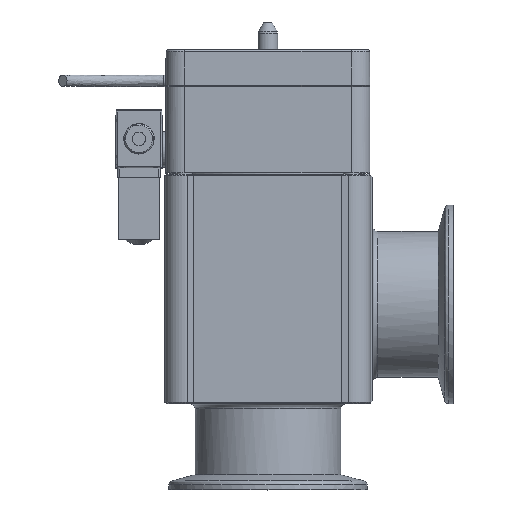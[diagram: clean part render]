
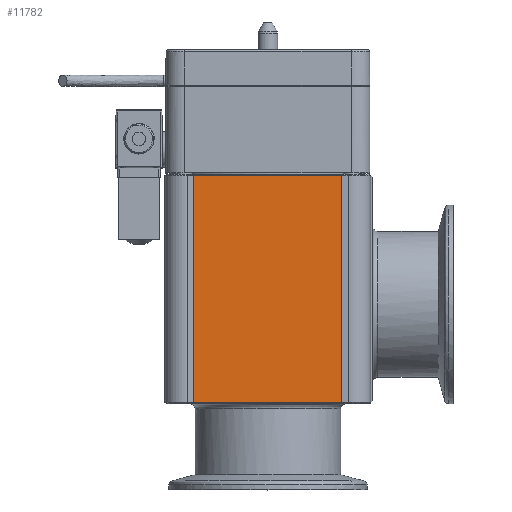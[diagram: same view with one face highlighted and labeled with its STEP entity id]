
A CAD part, top view. The second image highlights one B-rep face of the part: STEP entity #11782.
In plain terms, the highlighted free-form (B-spline) face has degree [1, 1] with [2, 2] control points.
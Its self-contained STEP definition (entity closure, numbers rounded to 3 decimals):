
#8015=CARTESIAN_POINT('V148',(27.938,0.4,
   38.5));
#8016=VERTEX_POINT('V148',#8015);
#8059=CARTESIAN_POINT('V146',(-27.938,0.4,
   38.5));
#8060=VERTEX_POINT('V146',#8059);
#8066=CARTESIAN_POINT('E251',(-27.938,0.4,
   38.5));
#8067=CARTESIAN_POINT('E251',(27.938,0.4,
   38.5));
#8068=B_SPLINE_CURVE_WITH_KNOTS('E251',1,(#8066,#8067),
   .POLYLINE_FORM.,.F.,.U.,(2,2),(2.0,100.775),
   .UNSPECIFIED.);
#8069=EDGE_CURVE('E251',#8060,#8016,#8068,.T.);
#9039=CARTESIAN_POINT('V96',(-27.938,86.1,
   38.5));
#9040=VERTEX_POINT('V96',#9039);
#9083=CARTESIAN_POINT('V94',(27.938,86.1,
   38.5));
#9084=VERTEX_POINT('V94',#9083);
#9090=CARTESIAN_POINT('E153',(27.938,86.1,
   38.5));
#9091=CARTESIAN_POINT('E153',(-27.938,86.1,
   38.5));
#9092=B_SPLINE_CURVE_WITH_KNOTS('E153',1,(#9090,#9091),
   .POLYLINE_FORM.,.F.,.U.,(2,2),(2.0,100.775),
   .UNSPECIFIED.);
#9093=EDGE_CURVE('E153',#9084,#9040,#9092,.T.);
#11759=CARTESIAN_POINT('E49',(-27.938,0.4,
   38.5));
#11760=CARTESIAN_POINT('E49',(-27.938,86.1,
   38.5));
#11761=B_SPLINE_CURVE_WITH_KNOTS('E49',1,(#11759,#11760),
   .POLYLINE_FORM.,.F.,.U.,(2,2),(0.17,
   36.514),.UNSPECIFIED.);
#11762=EDGE_CURVE('E49',#8060,#9040,#11761,.T.);
#11767=CARTESIAN_POINT('F17',(-27.938,0.0,
   38.5));
#11768=CARTESIAN_POINT('F17',(27.938,0.0,
   38.5));
#11769=CARTESIAN_POINT('F17',(-27.938,90.0,
   38.5));
#11770=CARTESIAN_POINT('F17',(27.938,90.0,
   38.5));
#11771=B_SPLINE_SURFACE_WITH_KNOTS('F17',1,1,((#11767,#11769),(
   #11768,#11770)),.PLANE_SURF.,.F.,.F.,.U.,(2,2),(2,2),(0.0,1.0),
   (0.0,1.611),.UNSPECIFIED.);
#11772=ORIENTED_EDGE('E251',*,*,#8069,.F.);
#11773=ORIENTED_EDGE('F16',*,*,#11762,.T.);
#11774=ORIENTED_EDGE('E153',*,*,#9093,.F.);
#11775=CARTESIAN_POINT('E52',(27.938,0.4,
   38.5));
#11776=CARTESIAN_POINT('E52',(27.938,86.1,
   38.5));
#11777=B_SPLINE_CURVE_WITH_KNOTS('E52',1,(#11775,#11776),
   .POLYLINE_FORM.,.F.,.U.,(2,2),(0.007,
   1.541),.UNSPECIFIED.);
#11778=EDGE_CURVE('E52',#8016,#9084,#11777,.T.);
#11779=ORIENTED_EDGE('E52',*,*,#11778,.F.);
#11780=EDGE_LOOP('F17',(#11772,#11773,#11774,#11779));
#11781=FACE_OUTER_BOUND('F17',#11780,.F.);
#11782=ADVANCED_FACE('F17',(#11781),#11771,.T.);
